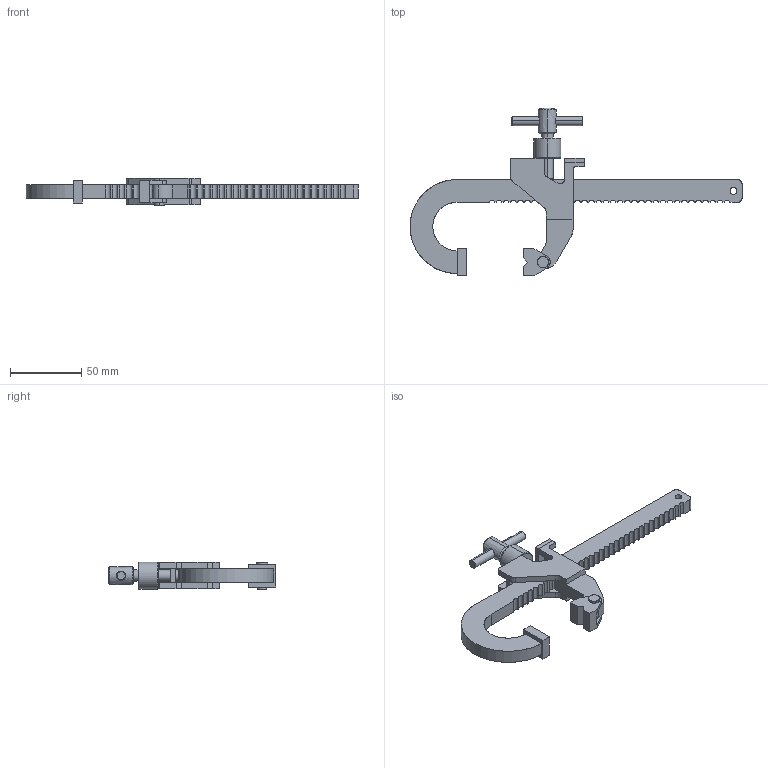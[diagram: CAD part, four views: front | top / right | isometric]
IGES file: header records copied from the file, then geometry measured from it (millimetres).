
Start section: SolidWorks IGES file using analytic representation for surfaces
Global section: file name: C:\Projetos\Grampos\Sargento\KFS-150\KFS 150.IGS; native system: SolidWorks 2012; preprocessor: SolidWorks 2012; author: Ricardo; date: 120905.090136; units: millimetre
Bounding box: 233 x 117.5 x 19.59 mm (x, y, z)
Surface area: 33339.6 mm2 (no closed solid volume)
Topology: 0 solids, 0 shells, 228 faces, 3496 edges, 3496 vertices
Faces by surface type: bspline 126, revolution 102
